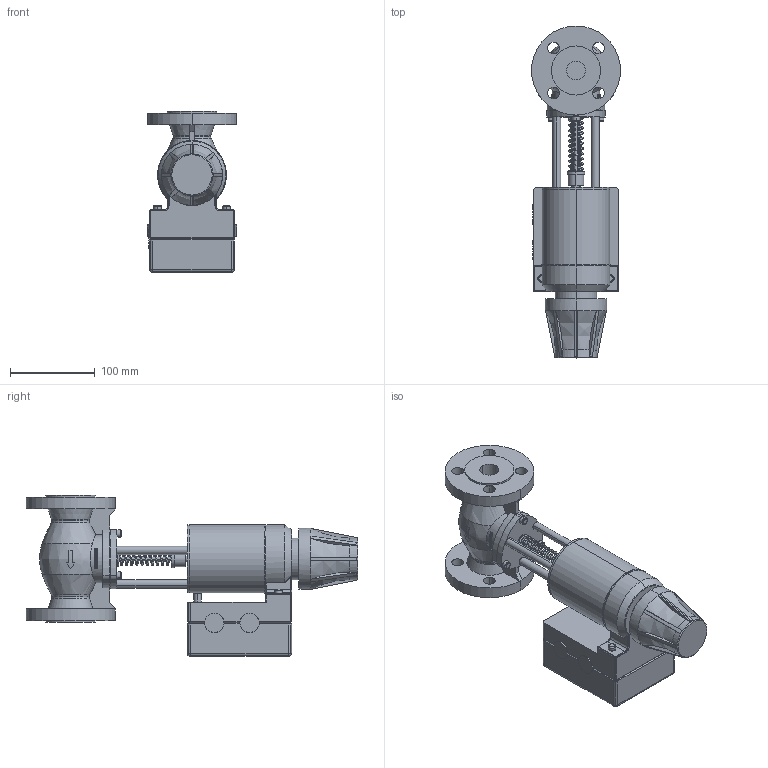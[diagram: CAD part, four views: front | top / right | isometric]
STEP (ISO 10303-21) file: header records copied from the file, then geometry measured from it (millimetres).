
FILE_DESCRIPTION((''),'2;1');
FILE_NAME('000141.stp','2006-10-04T16:11:50',(''),(''),'Mechanical Desktop 2006','Mechanical Desktop 2006',', , ');
FILE_SCHEMA(('AUTOMOTIVE_DESIGN { 1 2 10303 214 0 1 1 1 }'));
Length unit declared in the file: millimetre
Products named in the file (1): Product
Bounding box: 105 x 391.5 x 190.37 mm (x, y, z)
Volume: 2317797.7 mm3; surface area: 279016.9 mm2
Topology: 71 solids, 71 shells, 955 faces, 2343 edges, 1521 vertices
Faces by surface type: cylinder 428, plane 365, bspline 63, torus 59, cone 32, sphere 8
Entity records: 31279 total; most frequent: CARTESIAN_POINT 9061, ORIENTED_EDGE 4662, DIRECTION 4551, EDGE_CURVE 2331, AXIS2_PLACEMENT_3D 1787, VERTEX_POINT 1521, EDGE_LOOP 978, VECTOR 977
